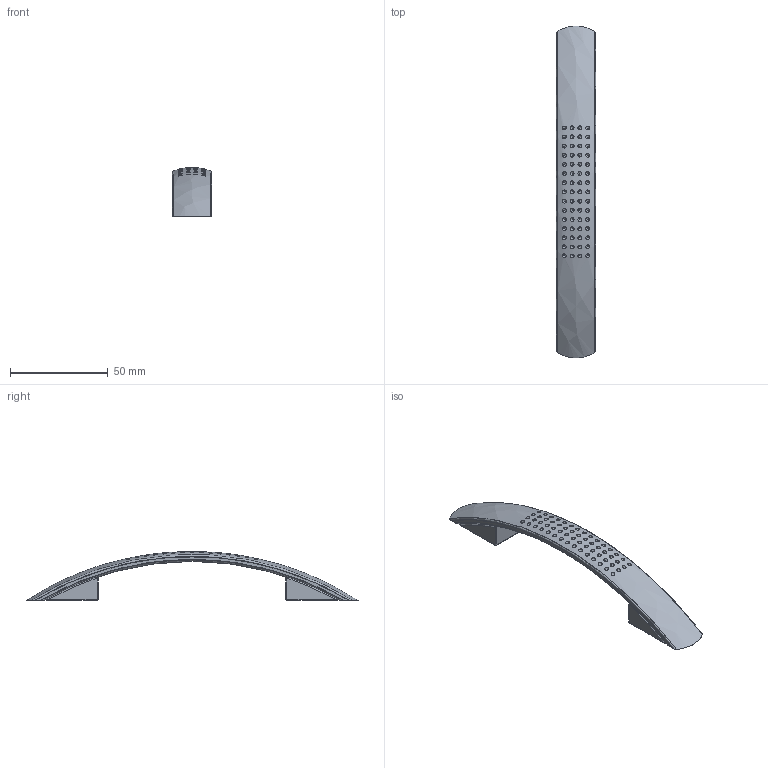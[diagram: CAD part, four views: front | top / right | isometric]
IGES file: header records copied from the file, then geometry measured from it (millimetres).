
Start section: C
Global section: file name: 0097-170.igs; native system: By Siemens PLM Incorporated; preprocessor: XPlus GENERIC/IGES 16.0.42; author: Author; organization: Title; date: 20260104.151410; units: millimetre
Bounding box: 20 x 169.95 x 24.98 mm (x, y, z)
Surface area: 12010.1 mm2 (no closed solid volume)
Topology: 0 solids, 0 shells, 127 faces, 604 edges, 530 vertices
Faces by surface type: bspline 127
